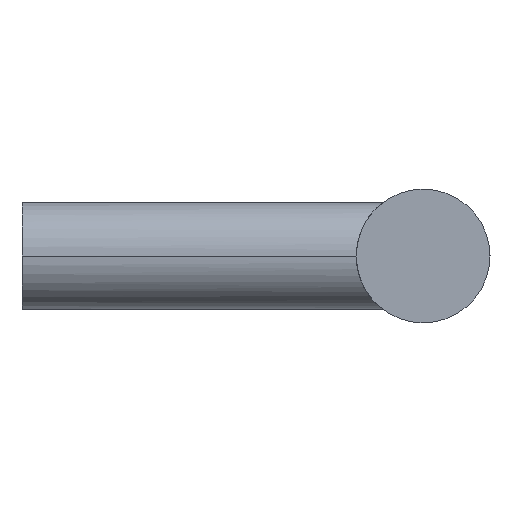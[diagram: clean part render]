
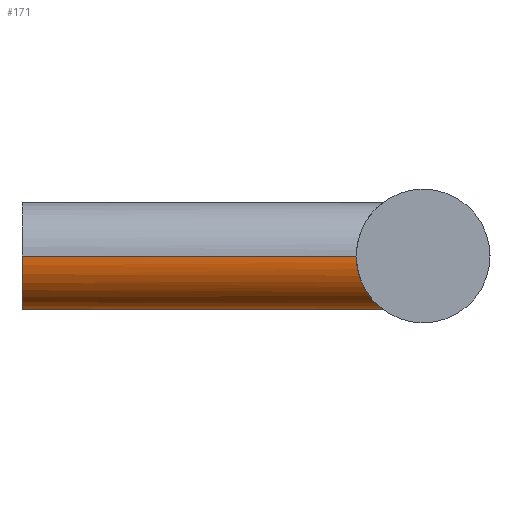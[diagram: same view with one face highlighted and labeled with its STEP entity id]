
A CAD part, left-side view. The second image highlights one B-rep face of the part: STEP entity #171.
In plain terms, the highlighted cylindrical face has radius 4 mm (diameter 8 mm), a partial arc.
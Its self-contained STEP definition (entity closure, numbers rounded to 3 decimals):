
#97 = VERTEX_POINT( '', #255 );
#99 = VERTEX_POINT( '', #257 );
#111 = EDGE_CURVE( '', #169, #97, #271, .T. );
#145 = EDGE_CURVE( '', #99, #97, #308, .T. );
#155 = EDGE_CURVE( '', #169, #195, #318, .T. );
#169 = VERTEX_POINT( '', #332 );
#171 = ADVANCED_FACE( '', ( #334 ), #335, .T. );
#195 = VERTEX_POINT( '', #364 );
#209 = EDGE_CURVE( '', #99, #195, #380, .T. );
#255 = CARTESIAN_POINT( '', ( -4., 0., 0. ) );
#257 = CARTESIAN_POINT( '', ( -4., -25., 0. ) );
#271 = CIRCLE( '', #445, 4. );
#308 = LINE( '', #506, #507 );
#318 = LINE( '', #537, #538 );
#332 = CARTESIAN_POINT( '', ( 4., 0., 0. ) );
#334 = FACE_OUTER_BOUND( '', #576, .T. );
#335 = CYLINDRICAL_SURFACE( '', #577, 4. );
#364 = CARTESIAN_POINT( '', ( 4., -25., 0. ) );
#380 = B_SPLINE_CURVE_WITH_KNOTS( '', 3, ( #685, #686, #687, #688, #689, #690, #691, #692, #693, #694, #695, #696, #697, #698, #699, #700, #701, #702, #703, #704, #705, #706, #707, #708, #709, #710, #711, #712, #713, #714, #715, #716, #717, #718 ), .UNSPECIFIED., .F., .F., ( 4, 2, 2, 2, 2, 2, 2, 2, 2, 2, 2, 2, 2, 2, 2, 2, 4 ), ( 6.46, 7.255, 8.05, 8.845, 9.639, 10.46, 11.28, 12.1, 12.921, 13.741, 14.561, 15.381, 16.202, 16.997, 17.791, 18.586, 19.381 ), .UNSPECIFIED. );
#445 = AXIS2_PLACEMENT_3D( '', #776, #777, #778 );
#506 = CARTESIAN_POINT( '', ( -4., 0., 0. ) );
#507 = VECTOR( '', #815, 1. );
#537 = CARTESIAN_POINT( '', ( 4., 0., 0. ) );
#538 = VECTOR( '', #819, 1. );
#576 = EDGE_LOOP( '', ( #823, #824, #825, #826 ) );
#577 = AXIS2_PLACEMENT_3D( '', #827, #828, #829 );
#685 = CARTESIAN_POINT( '', ( -4., -25., 0. ) );
#686 = CARTESIAN_POINT( '', ( -4., -25., -0.265 ) );
#687 = CARTESIAN_POINT( '', ( -3.973, -25.021, -0.535 ) );
#688 = CARTESIAN_POINT( '', ( -3.865, -25.107, -1.064 ) );
#689 = CARTESIAN_POINT( '', ( -3.784, -25.171, -1.323 ) );
#690 = CARTESIAN_POINT( '', ( -3.575, -25.333, -1.813 ) );
#691 = CARTESIAN_POINT( '', ( -3.447, -25.431, -2.045 ) );
#692 = CARTESIAN_POINT( '', ( -3.158, -25.645, -2.468 ) );
#693 = CARTESIAN_POINT( '', ( -2.997, -25.761, -2.66 ) );
#694 = CARTESIAN_POINT( '', ( -2.654, -25.996, -3.002 ) );
#695 = CARTESIAN_POINT( '', ( -2.459, -26.124, -3.165 ) );
#696 = CARTESIAN_POINT( '', ( -2.035, -26.379, -3.453 ) );
#697 = CARTESIAN_POINT( '', ( -1.807, -26.505, -3.578 ) );
#698 = CARTESIAN_POINT( '', ( -1.324, -26.728, -3.784 ) );
#699 = CARTESIAN_POINT( '', ( -1.07, -26.825, -3.864 ) );
#700 = CARTESIAN_POINT( '', ( -0.545, -26.962, -3.972 ) );
#701 = CARTESIAN_POINT( '', ( -0.273, -27., -4. ) );
#702 = CARTESIAN_POINT( '', ( 0.273, -27., -4. ) );
#703 = CARTESIAN_POINT( '', ( 0.545, -26.962, -3.972 ) );
#704 = CARTESIAN_POINT( '', ( 1.07, -26.825, -3.864 ) );
#705 = CARTESIAN_POINT( '', ( 1.324, -26.728, -3.784 ) );
#706 = CARTESIAN_POINT( '', ( 1.807, -26.505, -3.578 ) );
#707 = CARTESIAN_POINT( '', ( 2.035, -26.379, -3.453 ) );
#708 = CARTESIAN_POINT( '', ( 2.459, -26.124, -3.165 ) );
#709 = CARTESIAN_POINT( '', ( 2.654, -25.996, -3.002 ) );
#710 = CARTESIAN_POINT( '', ( 2.997, -25.761, -2.66 ) );
#711 = CARTESIAN_POINT( '', ( 3.158, -25.645, -2.468 ) );
#712 = CARTESIAN_POINT( '', ( 3.447, -25.431, -2.045 ) );
#713 = CARTESIAN_POINT( '', ( 3.575, -25.333, -1.813 ) );
#714 = CARTESIAN_POINT( '', ( 3.784, -25.171, -1.323 ) );
#715 = CARTESIAN_POINT( '', ( 3.865, -25.107, -1.064 ) );
#716 = CARTESIAN_POINT( '', ( 3.973, -25.021, -0.535 ) );
#717 = CARTESIAN_POINT( '', ( 4., -25., -0.265 ) );
#718 = CARTESIAN_POINT( '', ( 4., -25., 0. ) );
#776 = CARTESIAN_POINT( '', ( 0., 0., 0. ) );
#777 = DIRECTION( '', ( 0., 1., 0. ) );
#778 = DIRECTION( '', ( 1., 0., 0. ) );
#815 = DIRECTION( '', ( 0., 1., 0. ) );
#819 = DIRECTION( '', ( 0., -1., 0. ) );
#823 = ORIENTED_EDGE( '', *, *, #155, .T. );
#824 = ORIENTED_EDGE( '', *, *, #209, .F. );
#825 = ORIENTED_EDGE( '', *, *, #145, .T. );
#826 = ORIENTED_EDGE( '', *, *, #111, .F. );
#827 = CARTESIAN_POINT( '', ( 0., 0., 0. ) );
#828 = DIRECTION( '', ( 0., 1., 0. ) );
#829 = DIRECTION( '', ( 1., 0., 0. ) );
